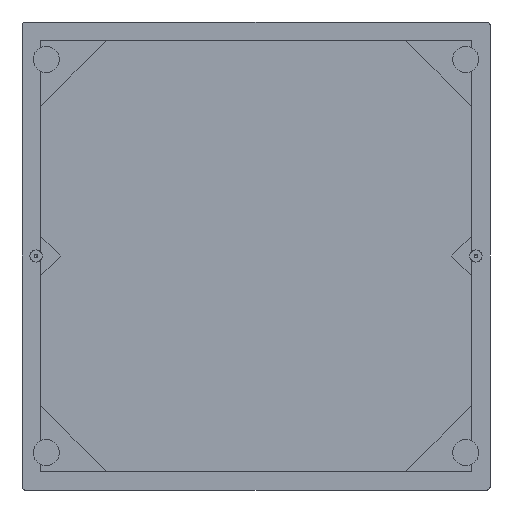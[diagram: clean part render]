
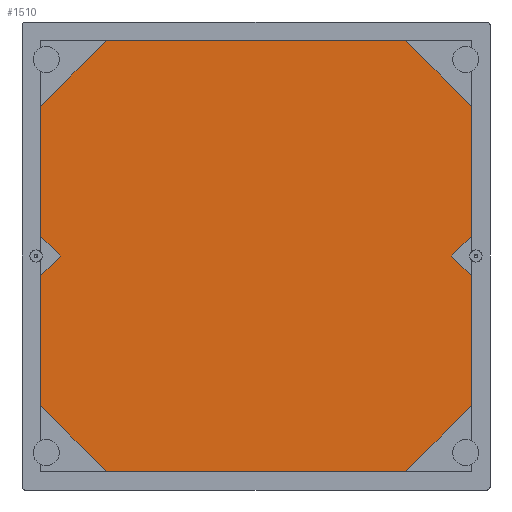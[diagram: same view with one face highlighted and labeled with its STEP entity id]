
A CAD part, front view. The second image highlights one B-rep face of the part: STEP entity #1510.
In plain terms, the highlighted planar face has unit normal (0, -1, 0).
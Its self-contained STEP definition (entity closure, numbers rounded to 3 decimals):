
#147=PLANE('',#1753);
#248=FACE_OUTER_BOUND('',#344,.T.);
#344=EDGE_LOOP('',(#1182,#1183,#1184,#1185));
#459=LINE('',#2497,#574);
#462=LINE('',#2502,#577);
#464=LINE('',#2506,#579);
#465=LINE('',#2508,#580);
#574=VECTOR('',#2015,10.);
#577=VECTOR('',#2020,10.);
#579=VECTOR('',#2024,10.);
#580=VECTOR('',#2027,10.);
#769=VERTEX_POINT('',#2494);
#770=VERTEX_POINT('',#2496);
#771=VERTEX_POINT('',#2500);
#772=VERTEX_POINT('',#2504);
#925=EDGE_CURVE('',#769,#770,#459,.F.);
#928=EDGE_CURVE('',#771,#769,#462,.F.);
#930=EDGE_CURVE('',#772,#771,#464,.F.);
#931=EDGE_CURVE('',#770,#772,#465,.F.);
#1182=ORIENTED_EDGE('',*,*,#931,.F.);
#1183=ORIENTED_EDGE('',*,*,#925,.F.);
#1184=ORIENTED_EDGE('',*,*,#928,.F.);
#1185=ORIENTED_EDGE('',*,*,#930,.F.);
#1510=ADVANCED_FACE('',(#248),#147,.F.);
#1753=AXIS2_PLACEMENT_3D('',#2509,#2028,#2029);
#2015=DIRECTION('',(0.,0.,-1.));
#2020=DIRECTION('',(1.,0.,0.));
#2024=DIRECTION('',(0.,0.,1.));
#2027=DIRECTION('',(-1.,0.,0.));
#2028=DIRECTION('center_axis',(0.,1.,0.));
#2029=DIRECTION('ref_axis',(0.,0.,1.));
#2494=CARTESIAN_POINT('',(-230.,230.,-230.));
#2496=CARTESIAN_POINT('',(-230.,230.,230.));
#2497=CARTESIAN_POINT('',(-230.,230.,-125.));
#2500=CARTESIAN_POINT('',(230.,230.,-230.));
#2502=CARTESIAN_POINT('',(125.,230.,-230.));
#2504=CARTESIAN_POINT('',(230.,230.,230.));
#2506=CARTESIAN_POINT('',(230.,230.,125.));
#2508=CARTESIAN_POINT('',(-125.,230.,230.));
#2509=CARTESIAN_POINT('Origin',(0.,230.,0.));
